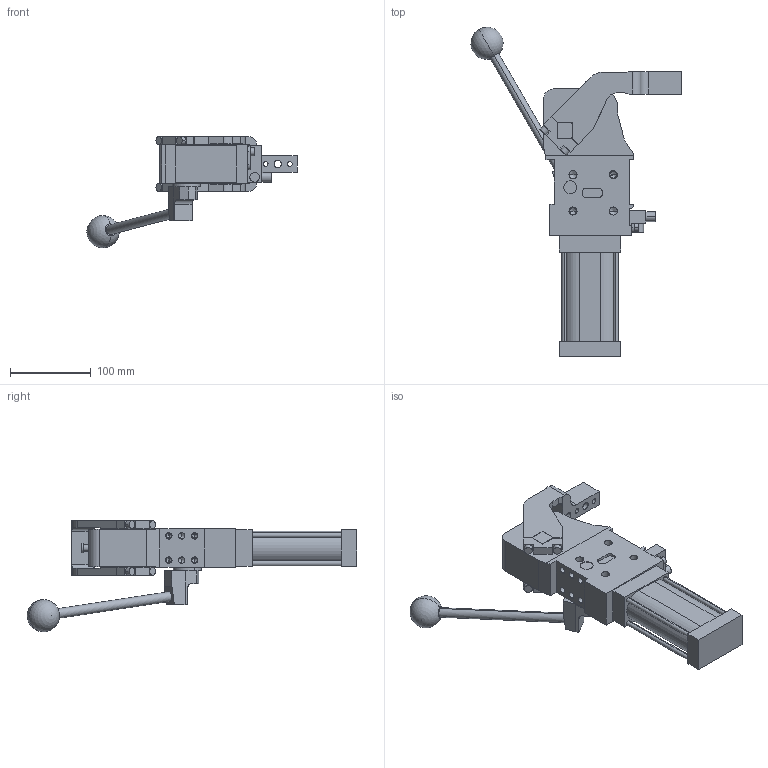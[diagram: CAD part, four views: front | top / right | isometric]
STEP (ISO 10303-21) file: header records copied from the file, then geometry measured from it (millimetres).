
FILE_DESCRIPTION (( 'STEP AP214' ), '1' );
FILE_NAME ('cplm50lbv3csi1g_26.STEP', '2023-01-26T13:53:33', ( '' ), ( '' ), 'SwSTEP 2.0', 'SolidWorks 2022', '' );
FILE_SCHEMA (( 'AUTOMOTIVE_DESIGN' ));
Length unit declared in the file: millimetre
Products named in the file (6): comando_manuale_cplm_50; cplm50lbv3csi1g_26; leva_cx_offset_45_cpl50; meccanica_cplm_50; blocchetto_VEP_0; blocchetto_VEP_90
Assembly tree (5 placements, depth 2):
  cplm50lbv3csi1g_26
    meccanica_cplm_50
    blocchetto_VEP_0
    leva_cx_offset_45_cpl50
    blocchetto_VEP_90
    comando_manuale_cplm_50
Bounding box: 260.54 x 408.46 x 138.5 mm (x, y, z)
Volume: 1491677.9 mm3; surface area: 189152 mm2
Topology: 5 solids, 5 shells, 457 faces, 1172 edges, 733 vertices
Faces by surface type: plane 232, cylinder 173, cone 50, sphere 2
Entity records: 15175 total; most frequent: DIRECTION 2413, CARTESIAN_POINT 2392, ORIENTED_EDGE 2242, EDGE_CURVE 1121, AXIS2_PLACEMENT_3D 833, LINE 747, VECTOR 747, VERTEX_POINT 730
